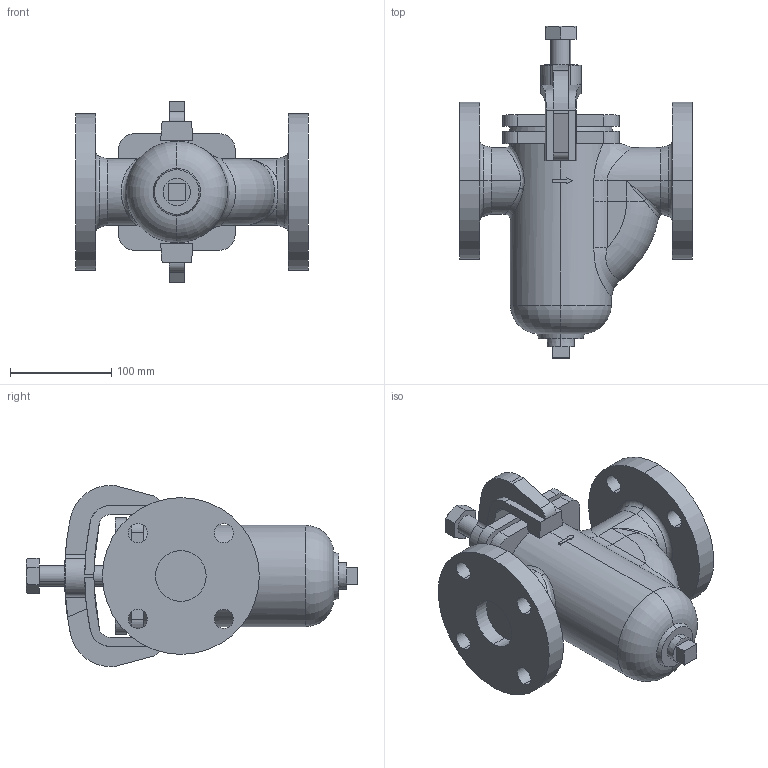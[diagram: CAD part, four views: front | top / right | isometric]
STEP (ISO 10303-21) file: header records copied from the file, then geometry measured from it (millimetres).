
FILE_DESCRIPTION (( 'STEP AP203' ), '1' );
FILE_NAME ('SU-20S 50A.STEP', '2025-12-15T02:25:42', ( '' ), ( '' ), 'SwSTEP 2.0', 'SolidWorks 2024', '' );
FILE_SCHEMA (( 'CONFIG_CONTROL_DESIGN' ));
Length unit declared in the file: millimetre
Products named in the file (4): SU-20S Arm 32-50A; SU-20S Body-P 50A; SU-20S Bolt 32-65A; SU-20S 50A
Assembly tree (3 placements, depth 2):
  SU-20S 50A
    SU-20S Body-P 50A
    SU-20S Arm 32-50A
    SU-20S Bolt 32-65A
Bounding box: 230 x 328 x 179 mm (x, y, z)
Volume: 3125606 mm3; surface area: 261651.5 mm2
Topology: 3 solids, 3 shells, 195 faces, 501 edges, 321 vertices
Faces by surface type: plane 79, cylinder 77, cone 19, bspline 7, torus 7, sphere 6
Entity records: 8352 total; most frequent: CARTESIAN_POINT 3223, ORIENTED_EDGE 998, DIRECTION 989, EDGE_CURVE 499, AXIS2_PLACEMENT_3D 375, VERTEX_POINT 321, LINE 239, VECTOR 239
